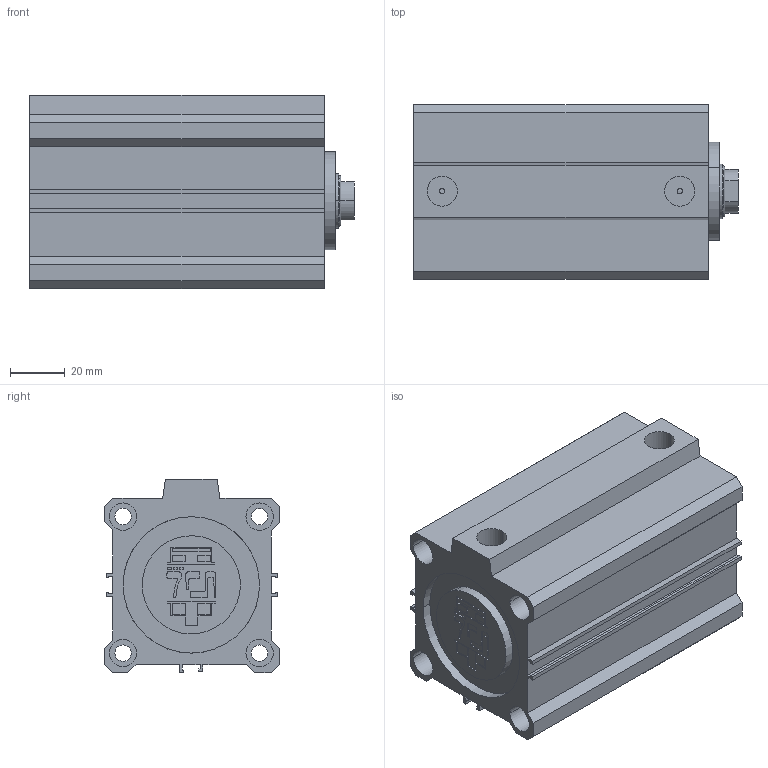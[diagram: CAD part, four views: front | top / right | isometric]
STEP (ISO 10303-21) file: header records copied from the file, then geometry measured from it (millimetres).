
FILE_DESCRIPTION(('CATIA V5 STEP Exchange'),'2;1');
FILE_NAME('D:\PDA\PDA-STP\PDA 50-20\PDA 50-20-70.stp','2016-02-02T10:49:58+00:00',('none'),('none'),'Version 5-6 Release 2012','CATIA V5 STEP AP203','none');
FILE_SCHEMA(('CONFIG_CONTROL_DESIGN'));
Length unit declared in the file: millimetre
Products named in the file (1): PDA 50-20-70-00
Assembly tree (2 placements, depth 2):
  PDA 50-20-70-00
    #58
    #6574
Bounding box: 119 x 64 x 71 mm (x, y, z)
Volume: 277571.1 mm3; surface area: 83585.7 mm2
Topology: 2 solids, 2 shells, 248 faces, 640 edges, 428 vertices
Faces by surface type: plane 172, cylinder 72, cone 2, torus 2
Entity records: 7094 total; most frequent: ORIENTED_EDGE 1280, CARTESIAN_POINT 1265, DIRECTION 966, EDGE_CURVE 640, VECTOR 482, LINE 482, VERTEX_POINT 428, AXIS2_PLACEMENT_3D 319
